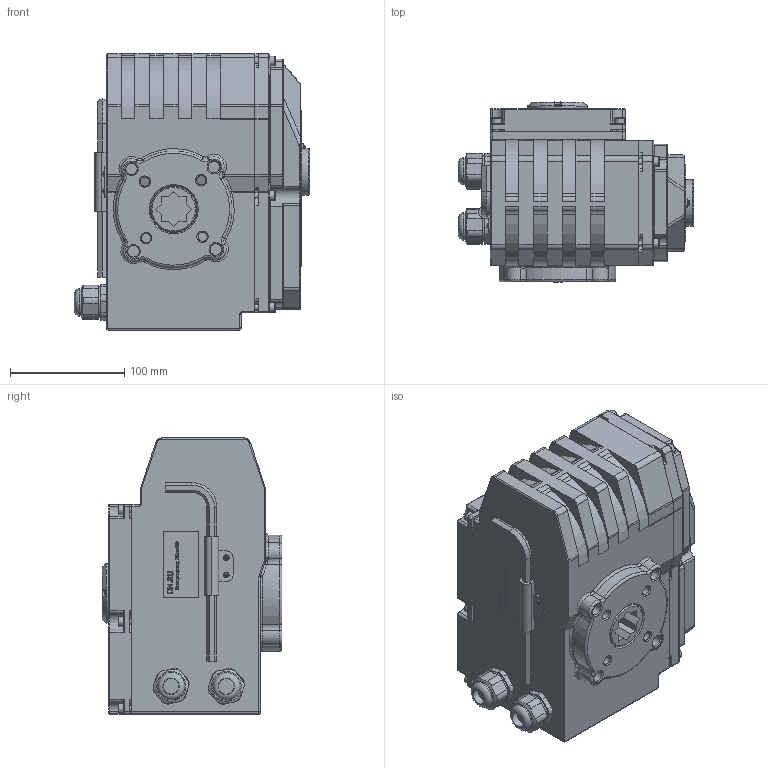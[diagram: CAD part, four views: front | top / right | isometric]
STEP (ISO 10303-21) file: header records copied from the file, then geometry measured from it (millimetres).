
FILE_DESCRIPTION(/* description */ ('D300-05870','CAx-IF Rec.Pracs.---Representation and Presentation of Product Manufacturing Information (PMI)---4.0---2014-10-13'),/* implementation_level */ '2;1');
FILE_NAME(/* name */ '',/* time_stamp */ '2026-04-01T01:25:13+03:00',/* author */ ('DN.RU'),/* organization */ ('DN.RU'),/* preprocessor_version */ 'ST-DEVELOPER v20',/* originating_system */ 'Autodesk Inventor 2025',/* authorisation */ '');
FILE_SCHEMA (('AP242_MANAGED_MODEL_BASED_3D_ENGINEERING_MIM_LF { 1 0 10303 442 1 1 4 }'));
Products named in the file (1): QT-N-020EM-O1-220VAC-У1 HARK
Bounding box: 205.9 x 157.5 x 241.8 mm (x, y, z)
Volume: 4761567.1 mm3; surface area: 300152.6 mm2
Topology: 1 solids, 2 shells, 1592 faces, 4202 edges, 2695 vertices
Faces by surface type: plane 681, cylinder 344, bspline 264, torus 197, cone 97, sphere 9
Full cylindrical faces by diameter (mm): 5 x12, 8 x4, 8.5 x12, 10 x4, 13.606 x2, 23.953 x2, 27.184 x2, 34.486 x1, 40 x2, 41 x1, 41.033 x1, 42.826 x2, 52 x1
Entity records: 54220 total; most frequent: CARTESIAN_POINT 14812, ORIENTED_EDGE 8346, DIRECTION 7211, EDGE_CURVE 4173, VERTEX_POINT 2695, AXIS2_PLACEMENT_3D 2557, LINE 2097, VECTOR 2097
